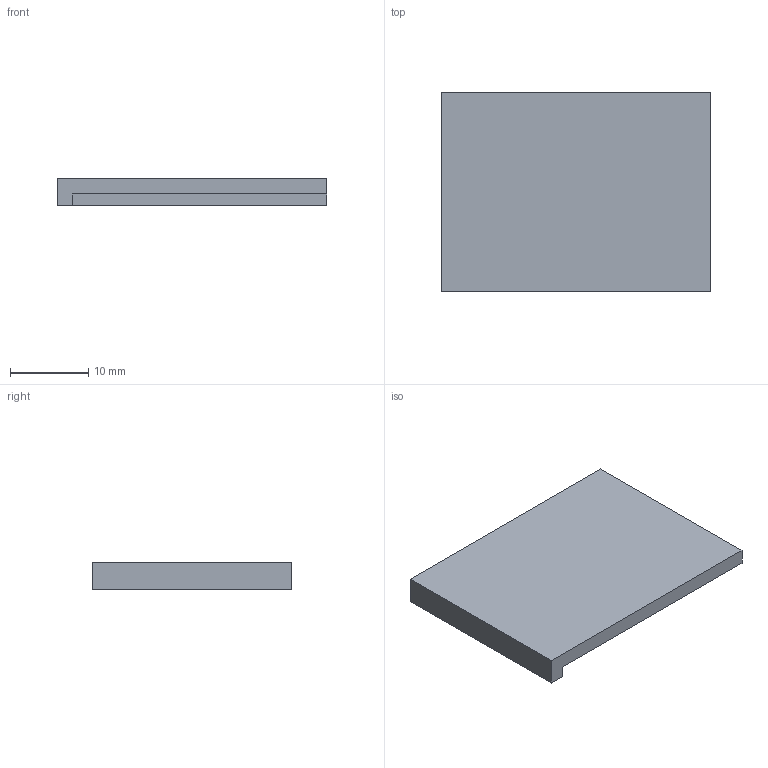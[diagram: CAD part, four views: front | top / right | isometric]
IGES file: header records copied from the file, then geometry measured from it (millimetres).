
Start section:  PTC IGES file: j4-lenz.igs
Global section: file name: j4-lenz.igs; native system: Pro/ENGINEER by Parametric Technology Corporation; preprocessor: 2010160; author: JE18792; organization: Unknown; date: 20121101.153744; units: millimetre
Bounding box: 34.5 x 25.5 x 3.5 mm (x, y, z)
Volume: 1933.5 mm3; surface area: 2179.5 mm2
Topology: 1 solids, 1 shells, 9 faces, 21 edges, 14 vertices
Faces by surface type: bspline 9
